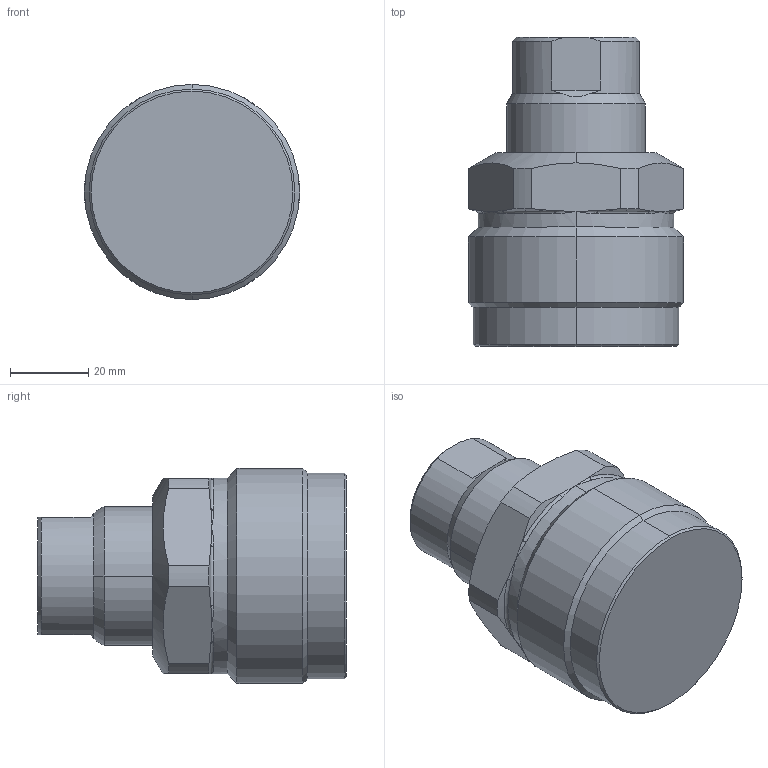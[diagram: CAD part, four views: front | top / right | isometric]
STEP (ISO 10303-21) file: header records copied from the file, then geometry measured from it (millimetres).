
FILE_DESCRIPTION((' '),'2;1');
FILE_NAME( 'TGM25-12.x_t.stp', '2024-08-27T13:43:52', (' '), ('--- Datakit www.datakit.com---'), ' Datakit CrossCadWare V2024.1 Dec 21 2023', 'Mastercam 2025', ' ');
FILE_SCHEMA(('AUTOMOTIVE_DESIGN { 1 0 10303 214 1 1 1 1 }'));
Length unit declared in the file: millimetre
Products named in the file (1): TGM25-12
Bounding box: 55 x 79 x 55 mm (x, y, z)
Volume: 120319.1 mm3; surface area: 19639 mm2
Topology: 2 solids, 2 shells, 79 faces, 194 edges, 109 vertices
Faces by surface type: cylinder 22, cone 22, plane 17, bspline 12, torus 6
Entity records: 4291 total; most frequent: CARTESIAN_POINT 2549, ORIENTED_EDGE 360, DIRECTION 352, EDGE_CURVE 180, AXIS2_PLACEMENT_3D 152, VERTEX_POINT 109, EDGE_LOOP 83, FACE_OUTER_BOUND 79
